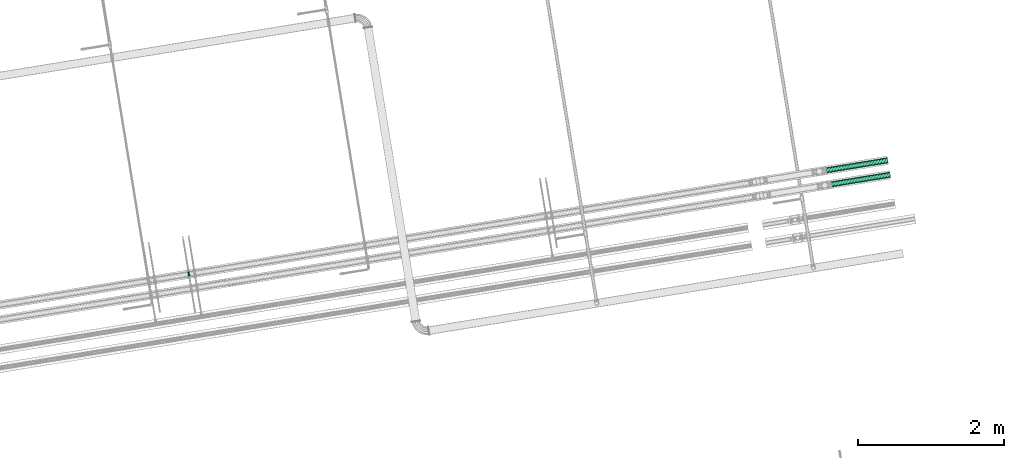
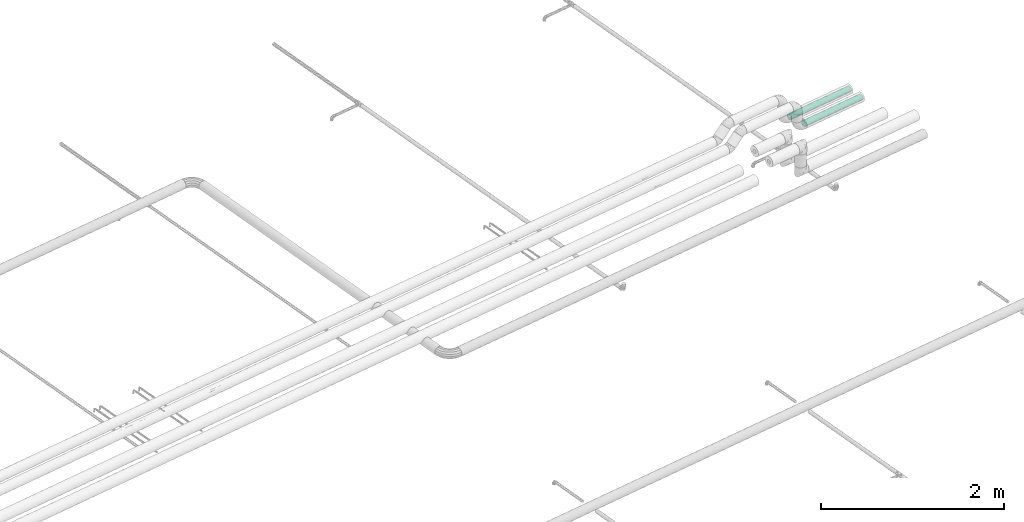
# One storey, part 56 of 56: 2 flow segments, 1 flow fitting.
"""IFC2X3 building model written with IfcOpenShell, lengths in millimetres."""

import ifcopenshell
import ifcopenshell.guid

model = None  # the IFC model being written
_history = None  # IfcOwnerHistory: only IFC2X3 demands one
_inside = {}  # id of a spatial element -> (the spatial element, [elements in it])
_under = {}  # id of a project, library or spatial element -> (it, [spatial elements below it])
_declared = {}  # id of a project -> (the project, [libraries it declares])
_typed = {}  # id of a type object -> (the type object, [elements of that type])
_made_of = {}  # id of a material, layer set ... -> (it, [elements and type objects made of it])


def new_model(schema):
    """Start an empty IFC model of exactly this schema.

    Asked for "IFC4X3", IfcOpenShell would pick the latest addendum, in which some entities
    have other attributes; the version numbers below select the first issue.
    IFC2X3 requires an IfcOwnerHistory on every rooted entity: one is made here for all.
    """
    global model, _history
    if schema == "IFC4X3":
        model = ifcopenshell.file(schema_version=(4, 3, 0, 0))
    else:
        model = ifcopenshell.file(schema=schema)
    _inside.clear()
    _under.clear()
    _declared.clear()
    _typed.clear()
    _made_of.clear()
    _history = None
    if model.schema == "IFC2X3":
        org = make("IfcOrganization", Name="unknown")
        user = make(
            "IfcPersonAndOrganization",
            ThePerson=make("IfcPerson", FamilyName="unknown"),
            TheOrganization=org,
        )
        app = make(
            "IfcApplication",
            ApplicationDeveloper=org,
            Version="unknown",
            ApplicationFullName="unknown",
            ApplicationIdentifier="unknown",
        )
        _history = make(
            "IfcOwnerHistory",
            OwningUser=user,
            OwningApplication=app,
            ChangeAction="ADDED",
            CreationDate=0,
        )
    return model


def make(cls, **values):
    """One entity of the class cls with the attributes given. An attribute that is None is left unset."""
    return model.create_entity(
        cls, **{name: value for name, value in values.items() if value is not None}
    )


def entity(cls, *values):
    """Any entity or typed value of the class cls, its attributes in the order of the schema. None: left unset."""
    e = model.create_entity(cls)
    for i, value in enumerate(values):
        if value is not None:
            e[i] = value
    return e


def rooted(cls, **values):
    """An entity with a GlobalId (a new one), such as an element, a storey or a relation."""
    return make(cls, GlobalId=ifcopenshell.guid.new(), OwnerHistory=_history, **values)


def si_unit(unit_type, name, prefix=None):
    """IfcSIUnit, for example si_unit("LENGTHUNIT", "METRE", prefix="MILLI")."""
    return make("IfcSIUnit", UnitType=unit_type, Prefix=prefix, Name=name)


def converted_unit(unit_type, name, factor, base, dimensions=None, offset=None):
    """IfcConversionBasedUnit, such as the inch: factor (a typed value) times the base unit."""
    return make(
        "IfcConversionBasedUnit"
        if offset is None
        else "IfcConversionBasedUnitWithOffset",
        ConversionOffset=offset,
        Dimensions=None
        if dimensions is None
        else entity("IfcDimensionalExponents", *dimensions),
        UnitType=unit_type,
        Name=name,
        ConversionFactor=make(
            "IfcMeasureWithUnit", ValueComponent=factor, UnitComponent=base
        ),
    )


def derived_unit(unit_type, elements):
    """IfcDerivedUnit: a product of units, each with its exponent."""
    return make(
        "IfcDerivedUnit",
        Elements=[
            make("IfcDerivedUnitElement", Unit=unit, Exponent=power)
            for unit, power in elements
        ],
        UnitType=unit_type,
    )


def assignment(units):
    """IfcUnitAssignment: the units of a project."""
    return None if units is None else make("IfcUnitAssignment", Units=units)


def point(xyz):
    """IfcCartesianPoint."""
    return None if xyz is None else make("IfcCartesianPoint", Coordinates=xyz)


def direction(xyz):
    """IfcDirection."""
    return None if xyz is None else make("IfcDirection", DirectionRatios=xyz)


def frame(location, z_axis=None, x_axis=None):
    """IfcAxis2Placement3D, a coordinate frame: its origin and axes. An axis left out is left unset."""
    return make(
        "IfcAxis2Placement3D",
        Location=point(location),
        Axis=direction(z_axis),
        RefDirection=direction(x_axis),
    )


def origin():
    """The frame at (0, 0, 0) with its axes left unset."""
    return frame((0.0, 0.0, 0.0))


def origin_with_axes():
    """The frame at (0, 0, 0) with the z axis (0, 0, 1) and the x axis (1, 0, 0) written out."""
    return frame((0.0, 0.0, 0.0), z_axis=(0.0, 0.0, 1.0), x_axis=(1.0, 0.0, 0.0))


def place(relative_to, where):
    """IfcLocalPlacement: puts the frame where relative to a parent placement (None: the world)."""
    return make(
        "IfcLocalPlacement", PlacementRelTo=relative_to, RelativePlacement=where
    )


def context(
    kind, dimensions, precision=None, world=None, true_north=None, identifier=None
):
    """IfcGeometricRepresentationContext, for example the 3D "Model" context."""
    return make(
        "IfcGeometricRepresentationContext",
        ContextIdentifier=identifier,
        ContextType=kind,
        CoordinateSpaceDimension=dimensions,
        Precision=precision,
        WorldCoordinateSystem=world,
        TrueNorth=true_north,
    )


def subcontext(parent, identifier, kind, view, scale=None):
    """IfcGeometricRepresentationSubContext, for example "Body" below "Model"."""
    return make(
        "IfcGeometricRepresentationSubContext",
        ContextIdentifier=identifier,
        ContextType=kind,
        ParentContext=parent,
        TargetScale=scale,
        TargetView=view,
    )


def project(units=None, contexts=None):
    """IfcProject with its units and contexts."""
    return rooted(
        "IfcProject",
        Name="project",
        RepresentationContexts=contexts,
        UnitsInContext=assignment(units),
    )


def spatial(cls, under=None, at=None, **own):
    """A site, building, storey or space (cls), placed at a placement, below another one or the project."""
    s = rooted(cls, ObjectPlacement=at, **own)
    if under is not None:
        _under.setdefault(under.id(), (under, []))[1].append(s)
    return s


def faces_of(points, faces, orient=None, outer=None):
    """IfcFace entities. A face is a list of loops; a loop is a list of indices into points, from 0.

    orient and outer hold one flag for each loop. By default every Orientation is true, the
    first loop of a face is its IfcFaceOuterBound and the others are IfcFaceBound.
    """
    made = []
    for i, loops in enumerate(faces):
        bounds = []
        for j, loop in enumerate(loops):
            is_outer = j == 0 if outer is None else outer[i][j]
            bounds.append(
                make(
                    "IfcFaceOuterBound" if is_outer else "IfcFaceBound",
                    Bound=make("IfcPolyLoop", Polygon=[points[k] for k in loop]),
                    Orientation=True if orient is None else orient[i][j],
                )
            )
        made.append(make("IfcFace", Bounds=bounds))
    return made


def faceted_brep(points, faces, orient=None, outer=None, voids=None):
    """IfcFacetedBrep: a solid bounded by flat faces; with voids (closed shells), ...WithVoids."""
    shared = [point(p) for p in points]
    hull = make("IfcClosedShell", CfsFaces=faces_of(shared, faces, orient, outer))
    if voids is None:
        return make("IfcFacetedBrep", Outer=hull)
    return make(
        "IfcFacetedBrepWithVoids",
        Outer=hull,
        Voids=[
            make(cls, CfsFaces=faces_of(shared, fs, o, b)) for cls, fs, o, b in voids
        ],
    )


def shape(context_of_items, identifier, shape_type, items):
    """IfcShapeRepresentation: the items that make up one representation, for example the "Body"."""
    return make(
        "IfcShapeRepresentation",
        ContextOfItems=context_of_items,
        RepresentationIdentifier=identifier,
        RepresentationType=shape_type,
        Items=items,
    )


def source(mapping_origin, context_of_items, identifier, shape_type, items):
    """IfcRepresentationMap: a shape defined once, which mapped items show again and again."""
    return make(
        "IfcRepresentationMap",
        MappingOrigin=mapping_origin,
        MappedRepresentation=shape(context_of_items, identifier, shape_type, items),
    )


def transform(
    local_origin,
    x_axis=None,
    y_axis=None,
    z_axis=None,
    scale=None,
    scale2=None,
    scale3=None,
    uniform=True,
):
    """IfcCartesianTransformationOperator3D, or its non-uniform kind. x_axis, y_axis, z_axis: its Axis1, 2, 3."""
    if uniform:
        return make(
            "IfcCartesianTransformationOperator3D",
            Axis1=direction(x_axis),
            Axis2=direction(y_axis),
            LocalOrigin=point(local_origin),
            Scale=scale,
            Axis3=direction(z_axis),
        )
    return make(
        "IfcCartesianTransformationOperator3DnonUniform",
        Axis1=direction(x_axis),
        Axis2=direction(y_axis),
        LocalOrigin=point(local_origin),
        Scale=scale,
        Axis3=direction(z_axis),
        Scale2=scale2,
        Scale3=scale3,
    )


def mapped(mapping_source, mapping_target):
    """IfcMappedItem: shows the shape of a source again, moved by a transform."""
    return make(
        "IfcMappedItem", MappingSource=mapping_source, MappingTarget=mapping_target
    )


def material(Name=None, Category=None):
    """IfcMaterial."""
    return make("IfcMaterial", Name=Name, Category=Category)


def material_list(materials):
    """IfcMaterialList."""
    return make("IfcMaterialList", Materials=materials)


def made_of(thing, what):
    """Note that an element or type object is made of a material, layer set ...; save() writes the relation."""
    if what is not None:
        _made_of.setdefault(what.id(), (what, []))[1].append(thing)
    return thing


def type_object(cls, material=None, **own):
    """A type object (cls), such as IfcWallType, which elements share."""
    return made_of(rooted(cls, **own), material)


def element(
    cls,
    number,
    at=None,
    inside=None,
    cuts=None,
    type_object=None,
    material=None,
    context=None,
    identifier="Body",
    shape_type=None,
    held_by="IfcProductDefinitionShape",
    body=None,
    shapes=None,
    **own,
):
    """One element of the class cls, such as IfcWall. Its Tag is "e" and its number.

    at: its placement. inside: the storey or other place that contains it. cuts: it is an
    opening in that element (IfcRelVoidsElement). A single representation is given by context,
    identifier, shape_type and body (its items); several are given by shapes. held_by: the class
    of the entity that holds the representations. save() writes the other relations.
    """
    e = rooted(cls, Tag="e%d" % number, ObjectPlacement=at, **own)
    if body is not None:
        shapes = [shape(context, identifier, shape_type, body)]
    if shapes is not None:
        e.Representation = make(held_by, Representations=shapes)
    if inside is not None:
        _inside.setdefault(inside.id(), (inside, []))[1].append(e)
    if cuts is not None:
        rooted(
            "IfcRelVoidsElement", RelatingBuildingElement=cuts, RelatedOpeningElement=e
        )
    if type_object is not None:
        _typed.setdefault(type_object.id(), (type_object, []))[1].append(e)
    return made_of(e, material)


def aggregate(whole, parts):
    """IfcRelAggregates: a whole, such as a stair, and the parts it consists of."""
    return rooted("IfcRelAggregates", RelatingObject=whole, RelatedObjects=parts)


def save(model, path):
    """Write the relations noted so far, then the file.

    IfcRelAggregates (storeys below a building ...), IfcRelContainedInSpatialStructure (elements
    in a storey), IfcRelDefinesByType, IfcRelAssociatesMaterial and IfcRelDeclares: one each for
    every whole, place, type object, material and project.
    """
    for whole, parts in _under.values():
        aggregate(whole, parts)
    for where, things in _inside.values():
        rooted(
            "IfcRelContainedInSpatialStructure",
            RelatedElements=things,
            RelatingStructure=where,
        )
    for kind, things in _typed.values():
        rooted("IfcRelDefinesByType", RelatedObjects=things, RelatingType=kind)
    for what, things in _made_of.values():
        rooted("IfcRelAssociatesMaterial", RelatedObjects=things, RelatingMaterial=what)
    for by, libraries in _declared.values():
        rooted("IfcRelDeclares", RelatingContext=by, RelatedDefinitions=libraries)
    model.write(path)


model = new_model("IFC2X3")

# Units and contexts
model_context = context("Model", 3, precision=0.01, world=origin(), true_north=direction((6.12323399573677e-17, 1.0)))
plan_context = context("Plan", 3, precision=1e-05, world=origin_with_axes())
body_context = subcontext(model_context, "Body", "Model", "MODEL_VIEW")
ifc_project = project(units=[converted_unit("PLANEANGLEUNIT", "DEGREE", entity("IfcPositiveLengthMeasure", 0.0174532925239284), si_unit("PLANEANGLEUNIT", "RADIAN"), dimensions=[0, 0, 0, 0, 0, 0, 0]), si_unit("AREAUNIT", "SQUARE_METRE"), si_unit("LENGTHUNIT", "METRE", prefix="MILLI"), si_unit("MASSUNIT", "GRAM", prefix="KILO"), si_unit("POWERUNIT", "WATT"), si_unit("PRESSUREUNIT", "PASCAL", prefix="KILO"), si_unit("FORCEUNIT", "NEWTON", prefix="KILO"), si_unit("ELECTRICVOLTAGEUNIT", "VOLT"), si_unit("ELECTRICCURRENTUNIT", "AMPERE"), si_unit("THERMODYNAMICTEMPERATUREUNIT", "DEGREE_CELSIUS"), si_unit("TIMEUNIT", "SECOND"), si_unit("VOLUMEUNIT", "CUBIC_METRE"), derived_unit("LINEARVELOCITYUNIT", [(si_unit("LENGTHUNIT", "METRE"), 1), (si_unit("TIMEUNIT", "SECOND"), -1)]), derived_unit("VOLUMETRICFLOWRATEUNIT", [(si_unit("VOLUMEUNIT", "CUBIC_METRE"), 1), (si_unit("TIMEUNIT", "SECOND"), -1)]), derived_unit("THERMALTRANSMITTANCEUNIT", [(si_unit("POWERUNIT", "WATT"), 1), (si_unit("THERMODYNAMICTEMPERATUREUNIT", "KELVIN"), -1), (si_unit("AREAUNIT", "SQUARE_METRE"), -1)]), derived_unit("SOUNDPRESSUREUNIT", [(si_unit("PRESSUREUNIT", "PASCAL"), 1)])], contexts=[model_context, plan_context])

# Site, building, storey
site_placement = place(None, frame((-3.09682673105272e-06, 1.93776733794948e-05, 0.0), z_axis=(0.0, 0.0, 1.0), x_axis=(-0.160806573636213, 0.986985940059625, 0.0)))
site = spatial("IfcSite", under=ifc_project, at=site_placement, Name="Default", CompositionType="ELEMENT")
building_placement = place(site_placement, frame((0.0, 0.0, 0.0), z_axis=(0.0, 0.0, 1.0), x_axis=(1.0, -2.77555756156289e-17, 0.0)))
building = spatial("IfcBuilding", under=site, at=building_placement, Name="Bygning (endres i Project Information)", CompositionType="ELEMENT")
storey_placement = place(building_placement, frame((0.0, 0.0, 51360.0000000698), z_axis=(0.0, 0.0, 1.0), x_axis=(1.0, -2.77555756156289e-17, 0.0)))
storey = spatial("IfcBuildingStorey", under=building, at=storey_placement, Name="H01-Nivå D+0,36", CompositionType="ELEMENT", Elevation=51360.0000000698)

# Flow fitting
ifc_material_1 = material(Name="Geberit_Plastic_Red")
ifc_material_2 = material(Name="Geberit_Mapress_C-Steel")
ifc_material_list = material_list([ifc_material_1, ifc_material_2])
pipe_fitting_type = type_object("IfcPipeFittingType", Name="PRO_103183:DN10-100 / d12-108 - OD", PredefinedType="TRANSITION", material=ifc_material_list)
shared_shape = source(origin(), body_context, "Body", "Brep", [
    faceted_brep([(49.0, 8.70000000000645, 0.0), (49.0, 4.35000000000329, -7.53442101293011), (55.0, 4.35000000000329, -7.53442101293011), (55.0, 8.70000000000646, 0.0), (49.0, -4.35000000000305, -7.53442101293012), (55.0, -4.35000000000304, -7.53442101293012), (49.0, -8.70000000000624, 0.0), (55.0, -8.70000000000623, 0.0), (49.0, -4.35000000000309, 7.53442101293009), (55.0, -4.35000000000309, 7.53442101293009), (49.0, 4.35000000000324, 7.53442101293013), (55.0, 4.35000000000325, 7.53442101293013), (51.4241214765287, 8.25883110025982, -8.20848959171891), (52.0, 11.7000000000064, 0.0), (53.5000000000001, 10.2000000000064, 0.0), (50.5000000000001, -10.2000000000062, 0.0), (50.5000000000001, 10.2000000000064, 0.0), (51.9999999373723, 2.76994366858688e-07, -11.7000000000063), (53.5000000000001, -10.2000000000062, 0.0), (52.575878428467, -8.25883091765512, -8.20848980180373), (52.0, -11.7000000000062, 0.0), (51.4241214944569, -8.25883104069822, 8.20848965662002), (52.5758784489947, 8.25883086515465, 8.20848984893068), (51.9999999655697, -1.58418974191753e-07, 11.7000000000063)], [[[0, 1, 2, 3]], [[1, 4, 5, 2]], [[4, 6, 7, 5]], [[6, 8, 9, 7]], [[8, 10, 11, 9]], [[10, 0, 3, 11]], [[12, 13, 14]], [[15, 6, 4]], [[16, 13, 12]], [[17, 14, 2]], [[18, 19, 5]], [[5, 19, 17]], [[14, 17, 12]], [[2, 5, 17]], [[20, 19, 18]], [[0, 16, 1]], [[19, 20, 15]], [[15, 4, 17]], [[16, 12, 1]], [[18, 5, 7]], [[14, 3, 2]], [[15, 17, 19]], [[1, 12, 17]], [[4, 1, 17]], [[21, 20, 18]], [[11, 22, 23]], [[15, 20, 21]], [[23, 18, 9]], [[23, 21, 18]], [[15, 21, 8]], [[22, 16, 23]], [[10, 8, 23]], [[13, 22, 14]], [[14, 22, 11]], [[22, 13, 16]], [[16, 10, 23]], [[8, 21, 23]], [[6, 15, 8]], [[9, 11, 23]], [[14, 11, 3]], [[16, 0, 10]], [[18, 7, 9]]]),
    faceted_brep([(34.0, 7.50000000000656, 0.0), (34.0, 3.75000000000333, -6.49519052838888), (55.0, 3.75000000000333, -6.49519052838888), (55.0, 7.50000000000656, 0.0), (34.0, -3.75000000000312, -6.49519052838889), (55.0, -3.75000000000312, -6.49519052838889), (34.0, -7.50000000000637, 0.0), (55.0, -7.50000000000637, 0.0), (34.0, -3.75000000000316, 6.49519052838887), (55.0, -3.75000000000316, 6.49519052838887), (34.0, 3.75000000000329, 6.49519052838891), (55.0, 3.75000000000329, 6.49519052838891), (55.0, -4.35000000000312, -7.53442101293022), (55.0, -8.70000000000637, 0.0), (55.0, 4.35000000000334, -7.53442101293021), (55.0, 8.70000000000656, 0.0), (55.0, 4.35000000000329, 7.53442101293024), (55.0, -4.35000000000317, 7.5344210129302), (35.0, 4.35000000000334, -7.53442101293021), (35.0, 8.70000000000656, 0.0), (35.0, -4.35000000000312, -7.53442101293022), (35.0, -8.70000000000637, 0.0), (35.0, -4.35000000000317, 7.5344210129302), (35.0, 4.35000000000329, 7.53442101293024)], [[[0, 1, 2, 3]], [[1, 4, 5, 2]], [[4, 6, 7, 5]], [[6, 8, 9, 7]], [[8, 10, 11, 9]], [[10, 0, 3, 11]], [[12, 7, 13]], [[7, 12, 5]], [[2, 5, 12]], [[12, 14, 2]], [[3, 2, 14]], [[14, 15, 3]], [[16, 3, 15]], [[3, 16, 11]], [[17, 11, 16]], [[7, 9, 17]], [[11, 17, 9]], [[17, 13, 7]], [[15, 14, 18, 19]], [[14, 12, 20, 18]], [[12, 13, 21, 20]], [[13, 17, 22, 21]], [[17, 16, 23, 22]], [[16, 15, 19, 23]], [[19, 18, 1, 0]], [[18, 20, 4, 1]], [[20, 21, 6, 4]], [[21, 22, 8, 6]], [[22, 23, 10, 8]], [[23, 19, 0, 10]]]),
    faceted_brep([(35.0, 3.74999999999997, -6.49519052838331), (35.0, 5.30330085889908, -5.30330085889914), (35.0, 6.49519052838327, -3.75000000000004), (35.0, 7.244443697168, -1.94114283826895), (35.0, 7.5, 0.0), (35.0, 7.24444369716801, 1.9411428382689), (35.0, 6.49519052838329, 3.75), (35.0, 5.30330085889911, 5.3033008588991), (35.0, 3.75000000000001, 6.49519052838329), (35.0, 1.94114283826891, 7.24444369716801), (35.0, 0.0, 7.5), (35.0, -1.94114283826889, 7.24444369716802), (35.0, -3.74999999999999, 6.4951905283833), (35.0, -5.3033008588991, 5.30330085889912), (35.0, -6.49519052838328, 3.75000000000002), (35.0, -7.24444369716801, 1.94114283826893), (35.0, -7.5, 0.0), (35.0, -7.24444369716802, -1.94114283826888), (35.0, -6.4951905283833, -3.74999999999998), (35.0, -5.30330085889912, -5.30330085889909), (35.0, -3.75000000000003, -6.49519052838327), (35.0, -1.94114283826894, -7.244443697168), (35.0, 0.0, -7.5), (35.0, 1.94114283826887, -7.24444369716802), (25.2941176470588, 5.30330085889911, 5.3033008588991), (25.2941176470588, 6.49519052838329, 3.75), (25.2941176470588, 7.24444369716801, 1.9411428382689), (25.2941176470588, 7.5, 0.0), (25.2941176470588, 7.244443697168, -1.94114283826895), (25.2941176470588, 6.49519052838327, -3.75000000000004), (25.2941176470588, 5.30330085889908, -5.30330085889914), (25.2941176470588, 3.74999999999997, -6.49519052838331), (25.2941176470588, 1.94114283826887, -7.24444369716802), (25.2941176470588, 0.0, -7.5), (25.2941176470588, -1.94114283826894, -7.244443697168), (25.2941176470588, -3.75000000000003, -6.49519052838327), (25.2941176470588, -5.30330085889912, -5.30330085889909), (25.2941176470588, -6.4951905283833, -3.74999999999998), (25.2941176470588, -7.24444369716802, -1.94114283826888), (25.2941176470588, -7.5, 0.0), (25.2941176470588, -7.24444369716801, 1.94114283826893), (25.2941176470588, -6.49519052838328, 3.75000000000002), (25.2941176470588, -5.3033008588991, 5.30330085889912), (25.2941176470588, -3.74999999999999, 6.4951905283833), (25.2941176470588, -1.94114283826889, 7.24444369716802), (25.2941176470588, 0.0, 7.5), (25.2941176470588, 1.94114283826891, 7.24444369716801), (25.2941176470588, 3.75000000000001, 6.49519052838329)], [[[0, 1, 2, 3, 4, 5, 6, 7, 8, 9, 10, 11, 12, 13, 14, 15, 16, 17, 18, 19, 20, 21, 22, 23]], [[24, 25, 26, 27, 28, 29, 30, 31, 32, 33, 34, 35, 36, 37, 38, 39, 40, 41, 42, 43, 44, 45, 46, 47]], [[38, 17, 16, 39]], [[37, 18, 17, 38]], [[20, 19, 36, 35]], [[37, 36, 19, 18]], [[21, 20, 35, 34]], [[22, 21, 34, 33]], [[32, 23, 22, 33]], [[31, 0, 23, 32]], [[2, 1, 30, 29]], [[31, 30, 1, 0]], [[3, 2, 29, 28]], [[4, 3, 28, 27]], [[26, 5, 4, 27]], [[25, 6, 5, 26]], [[8, 7, 24, 47]], [[25, 24, 7, 6]], [[9, 8, 47, 46]], [[10, 9, 46, 45]], [[44, 11, 10, 45]], [[43, 12, 11, 44]], [[14, 13, 42, 41]], [[43, 42, 13, 12]], [[15, 14, 41, 40]], [[16, 15, 40, 39]]]),
    faceted_brep([(25.2941176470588, 7.5, 0.0), (25.2941176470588, 3.75000000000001, 6.49519052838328), (25.2941176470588, -3.74999999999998, 6.4951905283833), (25.2941176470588, -7.5, 0.0), (25.2941176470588, -3.75000000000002, -6.49519052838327), (25.2941176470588, 3.74999999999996, -6.49519052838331), (23.2941176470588, -4.49999999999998, 7.79422863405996), (23.2941176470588, 4.50000000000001, 7.79422863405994), (23.2941176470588, 9.0, 0.0), (23.2941176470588, 4.49999999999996, -7.79422863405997), (23.2941176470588, -4.50000000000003, -7.79422863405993), (23.2941176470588, -9.0, 0.0)], [[[0, 1, 2, 3, 4, 5]], [[6, 7, 8, 9, 10, 11]], [[0, 5, 9, 8]], [[5, 4, 10, 9]], [[4, 3, 11, 10]], [[3, 2, 6, 11]], [[2, 1, 7, 6]], [[1, 0, 8, 7]]]),
    faceted_brep([(23.2941176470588, 4.49999999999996, -7.79422863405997), (23.2941176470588, 6.36396103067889, -6.36396103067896), (23.2941176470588, 7.79422863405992, -4.50000000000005), (23.2941176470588, 8.6933324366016, -2.32937140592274), (23.2941176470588, 9.0, 0.0), (23.2941176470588, 8.69333243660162, 2.32937140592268), (23.2941176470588, 7.79422863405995, 4.5), (23.2941176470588, 6.36396103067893, 6.36396103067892), (23.2941176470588, 4.50000000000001, 7.79422863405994), (23.2941176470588, 2.3293714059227, 8.69333243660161), (23.2941176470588, 0.0, 9.0), (23.2941176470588, -2.32937140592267, 8.69333243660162), (23.2941176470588, -4.49999999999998, 7.79422863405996), (23.2941176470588, -6.36396103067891, 6.36396103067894), (23.2941176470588, -7.79422863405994, 4.50000000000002), (23.2941176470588, -8.69333243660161, 2.32937140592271), (23.2941176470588, -9.0, 0.0), (23.2941176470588, -8.69333243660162, -2.32937140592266), (23.2941176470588, -7.79422863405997, -4.49999999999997), (23.2941176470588, -6.36396103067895, -6.3639610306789), (23.2941176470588, -4.50000000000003, -7.79422863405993), (23.2941176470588, -2.32937140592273, -8.6933324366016), (23.2941176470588, 0.0, -9.0), (23.2941176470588, 2.32937140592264, -8.69333243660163), (0.0, 0.0, 9.0), (0.0, 2.3293714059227, 8.69333243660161), (0.0, 4.50000000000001, 7.79422863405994), (0.0, 6.36396103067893, 6.36396103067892), (0.0, 7.79422863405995, 4.5), (0.0, 8.69333243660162, 2.32937140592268), (0.0, 9.0, 0.0), (0.0, 8.6933324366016, -2.32937140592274), (0.0, 7.79422863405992, -4.50000000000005), (0.0, 6.36396103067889, -6.36396103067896), (0.0, 4.49999999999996, -7.79422863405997), (0.0, 2.32937140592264, -8.69333243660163), (0.0, 0.0, -9.0), (0.0, -2.32937140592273, -8.6933324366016), (0.0, -4.50000000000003, -7.79422863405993), (0.0, -6.36396103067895, -6.3639610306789), (0.0, -7.79422863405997, -4.49999999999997), (0.0, -8.69333243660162, -2.32937140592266), (0.0, -9.0, 0.0), (0.0, -8.69333243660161, 2.32937140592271), (0.0, -7.79422863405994, 4.50000000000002), (0.0, -6.36396103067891, 6.36396103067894), (0.0, -4.49999999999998, 7.79422863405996), (0.0, -2.32937140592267, 8.69333243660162)], [[[0, 1, 2, 3, 4, 5, 6, 7, 8, 9, 10, 11, 12, 13, 14, 15, 16, 17, 18, 19, 20, 21, 22, 23]], [[24, 25, 26, 27, 28, 29, 30, 31, 32, 33, 34, 35, 36, 37, 38, 39, 40, 41, 42, 43, 44, 45, 46, 47]], [[41, 17, 16, 42]], [[40, 18, 17, 41]], [[20, 19, 39, 38]], [[40, 39, 19, 18]], [[21, 20, 38, 37]], [[22, 21, 37, 36]], [[35, 23, 22, 36]], [[34, 0, 23, 35]], [[2, 1, 33, 32]], [[34, 33, 1, 0]], [[3, 2, 32, 31]], [[4, 3, 31, 30]], [[29, 5, 4, 30]], [[28, 6, 5, 29]], [[8, 7, 27, 26]], [[28, 27, 7, 6]], [[9, 8, 26, 25]], [[10, 9, 25, 24]], [[47, 11, 10, 24]], [[46, 12, 11, 47]], [[14, 13, 45, 44]], [[46, 45, 13, 12]], [[15, 14, 44, 43]], [[16, 15, 43, 42]]]),
])
flow_fitting_placement = place(storey_placement, frame((1011918.82273766, -386894.216572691, 3299.99999997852), z_axis=(0.0, 0.0, 1.0), x_axis=(-0.999999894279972, 0.000459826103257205, 0.0)))
element("IfcFlowFitting", 1, at=flow_fitting_placement, inside=storey, type_object=pipe_fitting_type, material=ifc_material_list, Name="PRO_103183:DN10-100 / d12-108 - OD", ObjectType="PRO_103183:DN10-100 / d12-108 - OD", context=body_context, shape_type="MappedRepresentation", body=[
    mapped(shared_shape, transform((0.0, 0.0, 0.0), scale=1.0)),
])

# Flow segments
ifc_material_3 = material(Name="3320.001")
pipe_segment_type = type_object("IfcPipeSegmentType", Name="Pipe Types:Stålrør sveist og gjenget", PredefinedType="NOTDEFINED", material=ifc_material_3)
flow_segment_1_placement = place(storey_placement, frame((0.0, 0.0, 0.0), z_axis=(0.0, 0.0, 1.0), x_axis=(1.0, -2.77555756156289e-17, 0.0)))
element("IfcFlowSegment", 2, at=flow_segment_1_placement, inside=storey, type_object=pipe_segment_type, Name="Pipe Types:Stålrør sveist og gjenget", ObjectType="Pipe Types:Stålrør sveist og gjenget", context=body_context, shape_type="Brep", body=[
    faceted_brep([(1011650.31764364, -396579.084056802, 3299.99999999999), (1011650.89570863, -396579.084056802, 3293.3926869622), (1011650.89570863, -395767.315734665, 3293.3926869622), (1011650.31764364, -395767.315734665, 3299.99999999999), (1011650.89570863, -396579.084056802, 3306.60731303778), (1011650.89570863, -395767.315734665, 3306.60731303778), (1011652.61233938, -396579.084056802, 3313.01386621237), (1011652.61233938, -395767.315734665, 3313.01386621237), (1011655.41537693, -396579.084056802, 3319.02499964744), (1011655.41537693, -395767.315734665, 3319.02499964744), (1011659.21965241, -396579.084056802, 3324.45806809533), (1011659.21965241, -395767.315734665, 3324.45806809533), (1011663.90957484, -396579.084056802, 3329.14799052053), (1011663.90957484, -395767.315734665, 3329.14799052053), (1011669.34264329, -396579.084056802, 3332.95226600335), (1011669.34264329, -395767.315734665, 3332.95226600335), (1011675.35377672, -396579.084056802, 3335.75530355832), (1011675.35377672, -395767.315734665, 3335.75530355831), (1011681.7603299, -396579.084056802, 3337.47193430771), (1011681.7603299, -395767.315734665, 3337.47193430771), (1011688.36764294, -396579.084056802, 3338.04999929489), (1011688.36764294, -395767.315734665, 3338.04999929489), (1011694.97495597, -396579.084056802, 3337.47193430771), (1011694.97495597, -395767.315734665, 3337.47193430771), (1011701.38150915, -396579.084056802, 3335.75530355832), (1011701.38150915, -395767.315734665, 3335.75530355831), (1011707.39264258, -396579.084056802, 3332.95226600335), (1011707.39264258, -395767.315734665, 3332.95226600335), (1011712.82571103, -396579.084056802, 3329.14799052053), (1011712.82571103, -395767.315734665, 3329.14799052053), (1011717.51563346, -396579.084056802, 3324.45806809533), (1011717.51563346, -395767.315734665, 3324.45806809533), (1011721.31990894, -396579.084056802, 3319.02499964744), (1011721.31990894, -395767.315734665, 3319.02499964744), (1011724.12294649, -396579.084056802, 3313.01386621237), (1011724.12294649, -395767.315734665, 3313.01386621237), (1011725.83957724, -396579.084056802, 3306.60731303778), (1011725.83957724, -395767.315734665, 3306.60731303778), (1011726.41764223, -396579.084056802, 3299.99999999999), (1011726.41764223, -395767.315734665, 3299.99999999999), (1011725.83957724, -396579.084056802, 3293.3926869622), (1011725.83957724, -395767.315734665, 3293.3926869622), (1011724.12294649, -396579.084056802, 3286.98613378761), (1011724.12294649, -395767.315734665, 3286.98613378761), (1011721.31990894, -396579.084056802, 3280.97500035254), (1011721.31990894, -395767.315734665, 3280.97500035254), (1011717.51563346, -396579.084056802, 3275.54193190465), (1011717.51563346, -395767.315734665, 3275.54193190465), (1011712.82571103, -396579.084056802, 3270.85200947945), (1011712.82571103, -395767.315734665, 3270.85200947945), (1011707.39264258, -396579.084056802, 3267.04773399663), (1011707.39264258, -395767.315734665, 3267.04773399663), (1011701.38150915, -396579.084056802, 3264.24469644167), (1011701.38150915, -395767.315734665, 3264.24469644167), (1011694.97495597, -396579.084056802, 3262.52806569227), (1011694.97495597, -395767.315734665, 3262.52806569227), (1011688.36764294, -396579.084056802, 3261.95000070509), (1011688.36764294, -395767.315734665, 3261.95000070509), (1011681.7603299, -396579.084056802, 3262.52806569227), (1011681.7603299, -395767.315734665, 3262.52806569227), (1011675.35377672, -396579.084056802, 3264.24469644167), (1011675.35377672, -395767.315734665, 3264.24469644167), (1011669.34264329, -396579.084056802, 3267.04773399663), (1011669.34264329, -395767.315734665, 3267.04773399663), (1011663.90957484, -396579.084056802, 3270.85200947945), (1011663.90957484, -395767.315734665, 3270.85200947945), (1011659.21965241, -396579.084056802, 3275.54193190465), (1011659.21965241, -395767.315734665, 3275.54193190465), (1011655.41537693, -396579.084056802, 3280.97500035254), (1011655.41537693, -395767.315734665, 3280.97500035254), (1011652.61233938, -396579.084056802, 3286.98613378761), (1011652.61233938, -395767.315734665, 3286.98613378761)], [[[0, 1, 2, 3]], [[4, 0, 3, 5]], [[6, 4, 5, 7]], [[8, 6, 7, 9]], [[10, 8, 9, 11]], [[12, 10, 11, 13]], [[14, 12, 13, 15]], [[16, 14, 15, 17]], [[18, 16, 17, 19]], [[20, 18, 19, 21]], [[22, 20, 21, 23]], [[24, 22, 23, 25]], [[26, 24, 25, 27]], [[28, 26, 27, 29]], [[30, 28, 29, 31]], [[32, 30, 31, 33]], [[34, 32, 33, 35]], [[36, 34, 35, 37]], [[38, 36, 37, 39]], [[40, 38, 39, 41]], [[42, 40, 41, 43]], [[44, 42, 43, 45]], [[46, 44, 45, 47]], [[48, 46, 47, 49]], [[50, 48, 49, 51]], [[52, 50, 51, 53]], [[54, 52, 53, 55]], [[56, 54, 55, 57]], [[58, 56, 57, 59]], [[60, 58, 59, 61]], [[62, 60, 61, 63]], [[64, 62, 63, 65]], [[66, 64, 65, 67]], [[68, 66, 67, 69]], [[70, 68, 69, 71]], [[1, 70, 71, 2]], [[3, 2, 71, 69, 67, 65, 63, 61, 59, 57, 55, 53, 51, 49, 47, 45, 43, 41, 39, 37, 35, 33, 31, 29, 27, 25, 23, 21, 19, 17, 15, 13, 11, 9, 7, 5]], [[4, 6, 8, 10, 12, 14, 16, 18, 20, 22, 24, 26, 28, 30, 32, 34, 36, 38, 40, 42, 44, 46, 48, 50, 52, 54, 56, 58, 60, 62, 64, 66, 68, 70, 1, 0]]], orient=[[False], [False], [False], [False], [False], [False], [False], [False], [False], [False], [False], [False], [False], [False], [False], [False], [False], [False], [False], [False], [False], [False], [False], [False], [False], [False], [False], [False], [False], [False], [False], [False], [False], [False], [False], [False], [False], [False]]),
])
flow_segment_2_placement = place(storey_placement, frame((0.0, 0.0, 0.0), z_axis=(0.0, 0.0, 1.0), x_axis=(1.0, -2.77555756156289e-17, 0.0)))
element("IfcFlowSegment", 3, at=flow_segment_2_placement, inside=storey, type_object=pipe_segment_type, Name="Pipe Types:Stålrør sveist og gjenget", ObjectType="Pipe Types:Stålrør sveist og gjenget", context=body_context, shape_type="Brep", body=[
    faceted_brep([(1011926.41764223, -396579.084056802, 3300.0), (1011925.83957724, -396579.084056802, 3306.60731303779), (1011925.83957724, -395725.815734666, 3306.60731303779), (1011926.41764223, -395725.815734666, 3300.0), (1011925.83957724, -396579.084056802, 3293.39268696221), (1011925.83957724, -395725.815734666, 3293.39268696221), (1011924.12294649, -396579.084056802, 3286.98613378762), (1011924.12294649, -395725.815734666, 3286.98613378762), (1011921.31990894, -396579.084056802, 3280.97500035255), (1011921.31990894, -395725.815734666, 3280.97500035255), (1011917.51563346, -396579.084056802, 3275.54193190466), (1011917.51563346, -395725.815734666, 3275.54193190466), (1011912.82571103, -396579.084056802, 3270.85200947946), (1011912.82571103, -395725.815734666, 3270.85200947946), (1011907.39264258, -396579.084056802, 3267.04773399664), (1011907.39264258, -395725.815734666, 3267.04773399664), (1011901.38150915, -396579.084056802, 3264.24469644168), (1011901.38150915, -395725.815734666, 3264.24469644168), (1011894.97495597, -396579.084056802, 3262.52806569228), (1011894.97495597, -395725.815734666, 3262.52806569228), (1011888.36764294, -396579.084056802, 3261.9500007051), (1011888.36764294, -395725.815734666, 3261.9500007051), (1011881.7603299, -396579.084056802, 3262.52806569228), (1011881.7603299, -395725.815734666, 3262.52806569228), (1011875.35377672, -396579.084056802, 3264.24469644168), (1011875.35377672, -395725.815734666, 3264.24469644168), (1011869.34264329, -396579.084056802, 3267.04773399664), (1011869.34264329, -395725.815734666, 3267.04773399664), (1011863.90957484, -396579.084056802, 3270.85200947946), (1011863.90957484, -395725.815734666, 3270.85200947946), (1011859.21965241, -396579.084056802, 3275.54193190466), (1011859.21965241, -395725.815734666, 3275.54193190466), (1011855.41537693, -396579.084056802, 3280.97500035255), (1011855.41537693, -395725.815734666, 3280.97500035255), (1011852.61233938, -396579.084056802, 3286.98613378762), (1011852.61233938, -395725.815734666, 3286.98613378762), (1011850.89570863, -396579.084056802, 3293.39268696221), (1011850.89570863, -395725.815734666, 3293.39268696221), (1011850.31764364, -396579.084056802, 3300.0), (1011850.31764364, -395725.815734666, 3300.0), (1011850.89570863, -396579.084056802, 3306.60731303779), (1011850.89570863, -395725.815734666, 3306.60731303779), (1011852.61233938, -396579.084056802, 3313.01386621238), (1011852.61233938, -395725.815734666, 3313.01386621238), (1011855.41537693, -396579.084056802, 3319.02499964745), (1011855.41537693, -395725.815734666, 3319.02499964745), (1011859.21965241, -396579.084056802, 3324.45806809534), (1011859.21965241, -395725.815734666, 3324.45806809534), (1011863.90957484, -396579.084056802, 3329.14799052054), (1011863.90957484, -395725.815734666, 3329.14799052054), (1011869.34264329, -396579.084056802, 3332.95226600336), (1011869.34264329, -395725.815734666, 3332.95226600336), (1011875.35377672, -396579.084056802, 3335.75530355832), (1011875.35377672, -395725.815734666, 3335.75530355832), (1011881.7603299, -396579.084056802, 3337.47193430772), (1011881.7603299, -395725.815734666, 3337.47193430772), (1011888.36764294, -396579.084056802, 3338.0499992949), (1011888.36764294, -395725.815734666, 3338.0499992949), (1011894.97495597, -396579.084056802, 3337.47193430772), (1011894.97495597, -395725.815734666, 3337.47193430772), (1011901.38150915, -396579.084056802, 3335.75530355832), (1011901.38150915, -395725.815734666, 3335.75530355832), (1011907.39264258, -396579.084056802, 3332.95226600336), (1011907.39264258, -395725.815734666, 3332.95226600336), (1011912.82571103, -396579.084056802, 3329.14799052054), (1011912.82571103, -395725.815734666, 3329.14799052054), (1011917.51563346, -396579.084056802, 3324.45806809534), (1011917.51563346, -395725.815734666, 3324.45806809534), (1011921.31990894, -396579.084056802, 3319.02499964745), (1011921.31990894, -395725.815734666, 3319.02499964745), (1011924.12294649, -396579.084056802, 3313.01386621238), (1011924.12294649, -395725.815734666, 3313.01386621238)], [[[0, 1, 2, 3]], [[4, 0, 3, 5]], [[6, 4, 5, 7]], [[8, 6, 7, 9]], [[10, 8, 9, 11]], [[12, 10, 11, 13]], [[14, 12, 13, 15]], [[16, 14, 15, 17]], [[18, 16, 17, 19]], [[20, 18, 19, 21]], [[22, 20, 21, 23]], [[24, 22, 23, 25]], [[26, 24, 25, 27]], [[28, 26, 27, 29]], [[30, 28, 29, 31]], [[32, 30, 31, 33]], [[34, 32, 33, 35]], [[36, 34, 35, 37]], [[38, 36, 37, 39]], [[40, 38, 39, 41]], [[42, 40, 41, 43]], [[44, 42, 43, 45]], [[46, 44, 45, 47]], [[48, 46, 47, 49]], [[50, 48, 49, 51]], [[52, 50, 51, 53]], [[54, 52, 53, 55]], [[56, 54, 55, 57]], [[58, 56, 57, 59]], [[60, 58, 59, 61]], [[62, 60, 61, 63]], [[64, 62, 63, 65]], [[66, 64, 65, 67]], [[68, 66, 67, 69]], [[70, 68, 69, 71]], [[1, 70, 71, 2]], [[3, 2, 71, 69, 67, 65, 63, 61, 59, 57, 55, 53, 51, 49, 47, 45, 43, 41, 39, 37, 35, 33, 31, 29, 27, 25, 23, 21, 19, 17, 15, 13, 11, 9, 7, 5]], [[4, 6, 8, 10, 12, 14, 16, 18, 20, 22, 24, 26, 28, 30, 32, 34, 36, 38, 40, 42, 44, 46, 48, 50, 52, 54, 56, 58, 60, 62, 64, 66, 68, 70, 1, 0]]], orient=[[False], [False], [False], [False], [False], [False], [False], [False], [False], [False], [False], [False], [False], [False], [False], [False], [False], [False], [False], [False], [False], [False], [False], [False], [False], [False], [False], [False], [False], [False], [False], [False], [False], [False], [False], [False], [False], [False]]),
])

save(model, "model.ifc")
